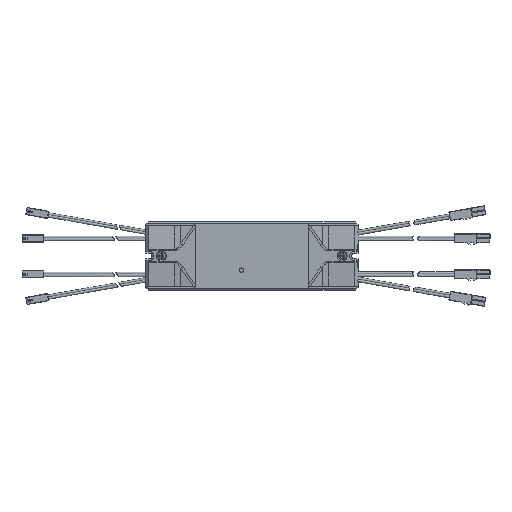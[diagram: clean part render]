
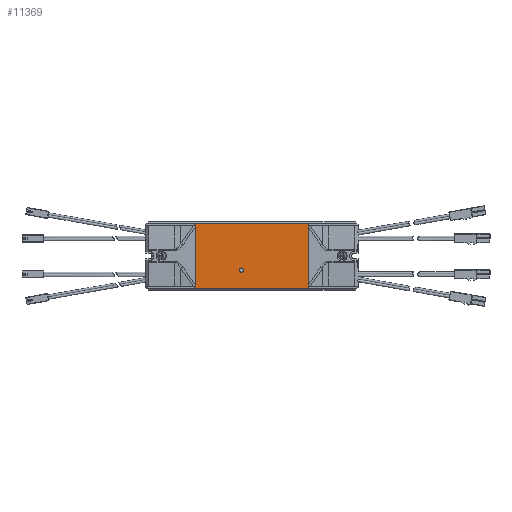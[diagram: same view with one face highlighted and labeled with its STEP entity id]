
A CAD part, top view. The second image highlights one B-rep face of the part: STEP entity #11369.
In plain terms, the highlighted planar face has unit normal (0, 0, 1).
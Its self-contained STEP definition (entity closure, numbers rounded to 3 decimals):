
#138 = FACE_OUTER_BOUND ( 'NONE', #8926, .T. ) ;
#404 = AXIS2_PLACEMENT_3D ( 'NONE', #15288, #13282, #24189 ) ;
#425 = EDGE_CURVE ( 'NONE', #3877, #19739, #4534, .T. ) ;
#551 = DIRECTION ( 'NONE',  ( 0., -1., 0. ) ) ;
#700 = CARTESIAN_POINT ( 'NONE',  ( -7., -9.7, 16. ) ) ;
#989 = LINE ( 'NONE', #23096, #12189 ) ;
#1119 = PLANE ( 'NONE',  #26872 ) ;
#1202 = VERTEX_POINT ( 'NONE', #12384 ) ;
#1463 = DIRECTION ( 'NONE',  ( 0., -1., 0. ) ) ;
#1688 = LINE ( 'NONE', #4556, #25370 ) ;
#1740 = VECTOR ( 'NONE', #3150, 1000. ) ;
#1882 = AXIS2_PLACEMENT_3D ( 'NONE', #700, #13790, #27138 ) ;
#1889 = LINE ( 'NONE', #27890, #3347 ) ;
#2836 = VECTOR ( 'NONE', #24154, 1000. ) ;
#3132 = CARTESIAN_POINT ( 'NONE',  ( -69.8, 0., 16. ) ) ;
#3150 = DIRECTION ( 'NONE',  ( 0., -1., 0. ) ) ;
#3347 = VECTOR ( 'NONE', #1463, 1000. ) ;
#3349 = EDGE_CURVE ( 'NONE', #19739, #3877, #17498, .T. ) ;
#3546 = DIRECTION ( 'NONE',  ( 0., 0., -1. ) ) ;
#3877 = VERTEX_POINT ( 'NONE', #27373 ) ;
#4534 = CIRCLE ( 'NONE', #404, 1.5 ) ;
#4539 = ORIENTED_EDGE ( 'NONE', *, *, #18082, .F. ) ;
#4556 = CARTESIAN_POINT ( 'NONE',  ( -69.8, 22.25, 16. ) ) ;
#4609 = VERTEX_POINT ( 'NONE', #24167 ) ;
#4908 = VECTOR ( 'NONE', #21248, 1000. ) ;
#5161 = VERTEX_POINT ( 'NONE', #21959 ) ;
#5284 = DIRECTION ( 'NONE',  ( 1., 0., 0. ) ) ;
#7322 = CARTESIAN_POINT ( 'NONE',  ( 38.5, 20.836, 16. ) ) ;
#7493 = ORIENTED_EDGE ( 'NONE', *, *, #13055, .F. ) ;
#8175 = EDGE_CURVE ( 'NONE', #21429, #17216, #13817, .T. ) ;
#8263 = VECTOR ( 'NONE', #551, 1000. ) ;
#8926 = EDGE_LOOP ( 'NONE', ( #21206, #17746, #20299, #17501, #16545, #7493, #17278, #26207, #26465, #9750, #16855, #4539 ) ) ;
#9387 = VECTOR ( 'NONE', #9603, 1000. ) ;
#9603 = DIRECTION ( 'NONE',  ( 1., 0., 0. ) ) ;
#9637 = EDGE_CURVE ( 'NONE', #4609, #5161, #1688, .T. ) ;
#9750 = ORIENTED_EDGE ( 'NONE', *, *, #10771, .T. ) ;
#9917 = VECTOR ( 'NONE', #13550, 1000. ) ;
#10771 = EDGE_CURVE ( 'NONE', #24385, #23645, #12181, .T. ) ;
#11369 = ADVANCED_FACE ( 'NONE', ( #21974, #138 ), #1119, .F. ) ;
#11431 = EDGE_CURVE ( 'NONE', #1202, #21429, #989, .T. ) ;
#12181 = LINE ( 'NONE', #22958, #9387 ) ;
#12184 = CARTESIAN_POINT ( 'NONE',  ( -5.5, -9.7, 16. ) ) ;
#12189 = VECTOR ( 'NONE', #5284, 1000. ) ;
#12293 = VERTEX_POINT ( 'NONE', #18470 ) ;
#12384 = CARTESIAN_POINT ( 'NONE',  ( -39., -20.836, 16. ) ) ;
#12487 = CARTESIAN_POINT ( 'NONE',  ( -77.819, 20.836, 16. ) ) ;
#12498 = CARTESIAN_POINT ( 'NONE',  ( -39., 22.25, 16. ) ) ;
#12629 = EDGE_CURVE ( 'NONE', #18796, #18830, #24460, .T. ) ;
#12803 = ORIENTED_EDGE ( 'NONE', *, *, #425, .F. ) ;
#13055 = EDGE_CURVE ( 'NONE', #17216, #20017, #21669, .T. ) ;
#13185 = DIRECTION ( 'NONE',  ( -1., 0., 0. ) ) ;
#13282 = DIRECTION ( 'NONE',  ( 0., 0., 1. ) ) ;
#13318 = EDGE_CURVE ( 'NONE', #5161, #20017, #20511, .T. ) ;
#13550 = DIRECTION ( 'NONE',  ( -1., 0., 0. ) ) ;
#13629 = CARTESIAN_POINT ( 'NONE',  ( 39., 0., 16. ) ) ;
#13790 = DIRECTION ( 'NONE',  ( 0., 0., 1. ) ) ;
#13797 = CARTESIAN_POINT ( 'NONE',  ( 39., 20.836, 16. ) ) ;
#13817 = LINE ( 'NONE', #26455, #2836 ) ;
#14341 = DIRECTION ( 'NONE',  ( 1., 0., 0. ) ) ;
#14748 = CARTESIAN_POINT ( 'NONE',  ( 77.819, -20.836, 16. ) ) ;
#15288 = CARTESIAN_POINT ( 'NONE',  ( -7., -9.7, 16. ) ) ;
#15423 = CARTESIAN_POINT ( 'NONE',  ( 77.819, 20.836, 16. ) ) ;
#15941 = CARTESIAN_POINT ( 'NONE',  ( 38.5, 20.836, 16. ) ) ;
#16217 = DIRECTION ( 'NONE',  ( -1., 0., 0. ) ) ;
#16308 = VECTOR ( 'NONE', #14341, 1000. ) ;
#16399 = VECTOR ( 'NONE', #24807, 1000. ) ;
#16418 = EDGE_CURVE ( 'NONE', #4609, #18796, #1889, .T. ) ;
#16524 = DIRECTION ( 'NONE',  ( 0., -1., 0. ) ) ;
#16545 = ORIENTED_EDGE ( 'NONE', *, *, #13318, .T. ) ;
#16760 = LINE ( 'NONE', #14748, #16308 ) ;
#16855 = ORIENTED_EDGE ( 'NONE', *, *, #23415, .F. ) ;
#17216 = VERTEX_POINT ( 'NONE', #25806 ) ;
#17278 = ORIENTED_EDGE ( 'NONE', *, *, #8175, .F. ) ;
#17498 = CIRCLE ( 'NONE', #1882, 1.5 ) ;
#17501 = ORIENTED_EDGE ( 'NONE', *, *, #9637, .T. ) ;
#17613 = EDGE_CURVE ( 'NONE', #1202, #24385, #24991, .T. ) ;
#17746 = ORIENTED_EDGE ( 'NONE', *, *, #12629, .F. ) ;
#17794 = ORIENTED_EDGE ( 'NONE', *, *, #3349, .F. ) ;
#18082 = EDGE_CURVE ( 'NONE', #12293, #25252, #16760, .T. ) ;
#18470 = CARTESIAN_POINT ( 'NONE',  ( 38.5, -20.836, 16. ) ) ;
#18668 = VECTOR ( 'NONE', #16524, 1000. ) ;
#18796 = VERTEX_POINT ( 'NONE', #13797 ) ;
#18830 = VERTEX_POINT ( 'NONE', #7322 ) ;
#19739 = VERTEX_POINT ( 'NONE', #12184 ) ;
#20017 = VERTEX_POINT ( 'NONE', #24382 ) ;
#20299 = ORIENTED_EDGE ( 'NONE', *, *, #16418, .F. ) ;
#20511 = LINE ( 'NONE', #20924, #16399 ) ;
#20695 = LINE ( 'NONE', #15941, #1740 ) ;
#20752 = EDGE_CURVE ( 'NONE', #18830, #12293, #20695, .T. ) ;
#20924 = CARTESIAN_POINT ( 'NONE',  ( -39., 22.25, 16. ) ) ;
#21206 = ORIENTED_EDGE ( 'NONE', *, *, #20752, .F. ) ;
#21248 = DIRECTION ( 'NONE',  ( -1., 0., 0. ) ) ;
#21429 = VERTEX_POINT ( 'NONE', #26083 ) ;
#21669 = LINE ( 'NONE', #12487, #4908 ) ;
#21959 = CARTESIAN_POINT ( 'NONE',  ( -39., 22.25, 16. ) ) ;
#21974 = FACE_BOUND ( 'NONE', #24646, .T. ) ;
#22521 = LINE ( 'NONE', #13629, #8263 ) ;
#22958 = CARTESIAN_POINT ( 'NONE',  ( -69.8, -22.25, 16. ) ) ;
#23096 = CARTESIAN_POINT ( 'NONE',  ( -77.819, -20.836, 16. ) ) ;
#23415 = EDGE_CURVE ( 'NONE', #25252, #23645, #22521, .T. ) ;
#23645 = VERTEX_POINT ( 'NONE', #26052 ) ;
#24154 = DIRECTION ( 'NONE',  ( 0., 1., 0. ) ) ;
#24167 = CARTESIAN_POINT ( 'NONE',  ( 39., 22.25, 16. ) ) ;
#24189 = DIRECTION ( 'NONE',  ( 1., 0., 0. ) ) ;
#24382 = CARTESIAN_POINT ( 'NONE',  ( -39., 20.836, 16. ) ) ;
#24385 = VERTEX_POINT ( 'NONE', #27125 ) ;
#24460 = LINE ( 'NONE', #15423, #9917 ) ;
#24646 = EDGE_LOOP ( 'NONE', ( #17794, #12803 ) ) ;
#24807 = DIRECTION ( 'NONE',  ( 0., -1., 0. ) ) ;
#24991 = LINE ( 'NONE', #12498, #18668 ) ;
#25252 = VERTEX_POINT ( 'NONE', #25882 ) ;
#25370 = VECTOR ( 'NONE', #13185, 1000. ) ;
#25806 = CARTESIAN_POINT ( 'NONE',  ( -38.5, 20.836, 16. ) ) ;
#25882 = CARTESIAN_POINT ( 'NONE',  ( 39., -20.836, 16. ) ) ;
#26052 = CARTESIAN_POINT ( 'NONE',  ( 39., -22.25, 16. ) ) ;
#26083 = CARTESIAN_POINT ( 'NONE',  ( -38.5, -20.836, 16. ) ) ;
#26207 = ORIENTED_EDGE ( 'NONE', *, *, #11431, .F. ) ;
#26455 = CARTESIAN_POINT ( 'NONE',  ( -38.5, 20.836, 16. ) ) ;
#26465 = ORIENTED_EDGE ( 'NONE', *, *, #17613, .T. ) ;
#26872 = AXIS2_PLACEMENT_3D ( 'NONE', #3132, #3546, #16217 ) ;
#27125 = CARTESIAN_POINT ( 'NONE',  ( -39., -22.25, 16. ) ) ;
#27138 = DIRECTION ( 'NONE',  ( 1., 0., 0. ) ) ;
#27373 = CARTESIAN_POINT ( 'NONE',  ( -8.5, -9.7, 16. ) ) ;
#27890 = CARTESIAN_POINT ( 'NONE',  ( 39., 0., 16. ) ) ;
